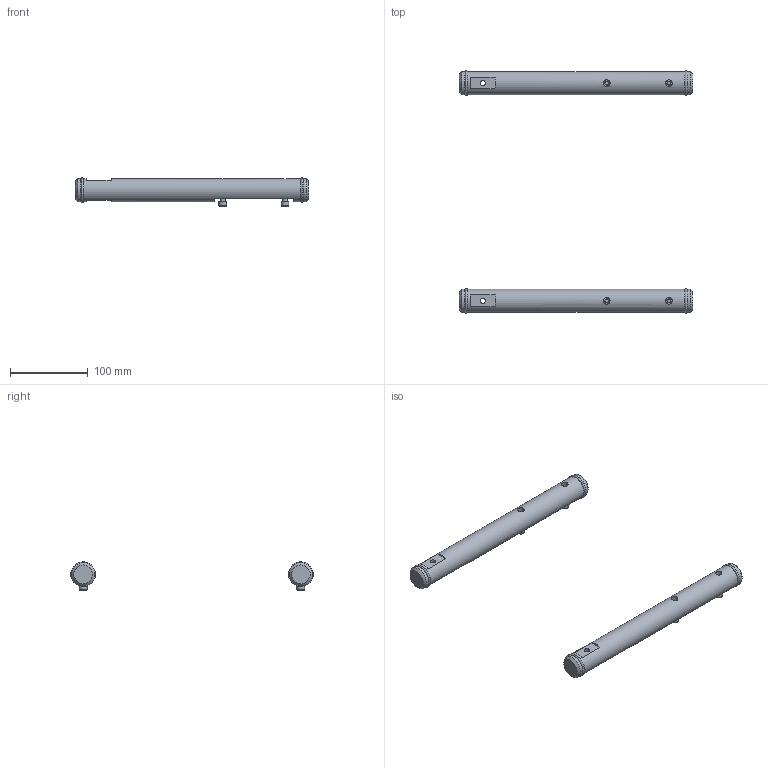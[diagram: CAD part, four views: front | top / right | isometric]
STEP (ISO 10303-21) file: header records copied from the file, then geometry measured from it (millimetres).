
FILE_DESCRIPTION(/* description */ ('Paire de pieds cylindriques pour 159-008'),/* implementation_level */ '2;1');
FILE_NAME(/* name */ 'S:\Bureau-Technique\Dispositif\MA 155-062-10.stp',/* time_stamp */ '2019-02-28T09:00:51+01:00',/* author */ ('ms'),/* organization */ ('Marcel Aubert'),/* preprocessor_version */ 'ST-DEVELOPER v17.2',/* originating_system */ 'Autodesk Inventor 2019',/* authorisation */ '');
FILE_SCHEMA (('CONFIG_CONTROL_DESIGN'));
Length unit declared in the file: millimetre
Products named in the file (4): MA 155-062-10; TIG-126-01; JOI-001-88; ISO 4762 - M6 x 10
Assembly tree (10 placements, depth 2):
  MA 155-062-10
    TIG-126-01  x2
    JOI-001-88  x4
    ISO 4762 - M6 x 10  x4
Bounding box: 300 x 311.8 x 36.3 mm (x, y, z)
Volume: 407552.9 mm3; surface area: 66969.7 mm2
Topology: 10 solids, 10 shells, 138 faces, 382 edges, 272 vertices
Faces by surface type: plane 70, cylinder 28, torus 28, cone 12
Full cylindrical faces by diameter (mm): 4.917 x4, 6 x4, 6.647 x2, 8.5 x4, 10 x4, 27.3 x4, 30 x6
Entity records: 2074 total; most frequent: CARTESIAN_POINT 404, DIRECTION 363, ORIENTED_EDGE 294, AXIS2_PLACEMENT_3D 160, EDGE_CURVE 147, VERTEX_POINT 106, CIRCLE 93, EDGE_LOOP 67
